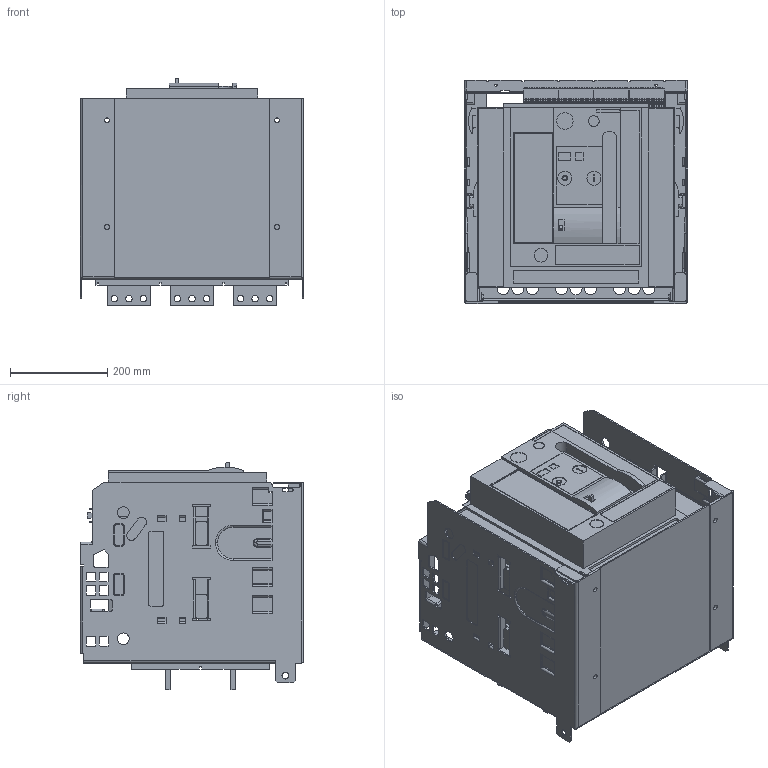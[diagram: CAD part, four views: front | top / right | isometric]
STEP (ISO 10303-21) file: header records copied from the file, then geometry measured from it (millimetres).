
FILE_DESCRIPTION (( 'STEP AP214' ), '1' );
FILE_NAME ('ARION_WL1220-___36.step', '2012-01-11T14:21:10', ( 'Radek Veselý' ), ( 'Siemens and Partners' ), 'SwSTEP 2.0', 'SolidWorks 2006303', '' );
FILE_SCHEMA (( 'AUTOMOTIVE_DESIGN' ));
Length unit declared in the file: millimetre
Products named in the file (1): ARION_WL1220-___36
Bounding box: 460 x 460 x 469.66 mm (x, y, z)
Volume: 48202327.1 mm3; surface area: 2874025.6 mm2
Topology: 8 solids, 8 shells, 3144 faces, 8354 edges, 5524 vertices
Faces by surface type: plane 2527, cylinder 606, torus 9, bspline 2
Entity records: 131779 total; most frequent: CARTESIAN_POINT 17177, ORIENTED_EDGE 16704, DIRECTION 15863, EDGE_CURVE 8352, LINE 7099, VECTOR 7099, VERTEX_POINT 5524, AXIS2_PLACEMENT_3D 4382
